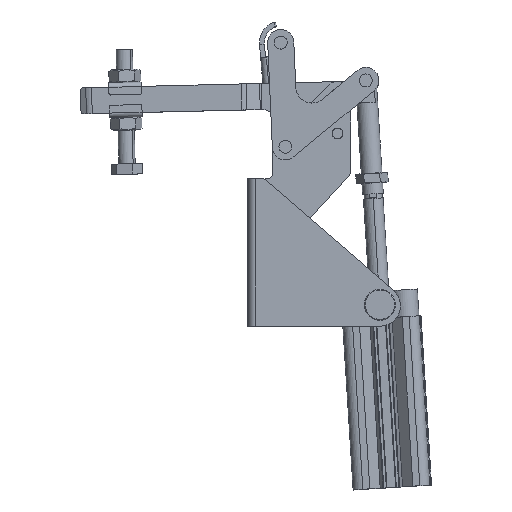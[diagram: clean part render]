
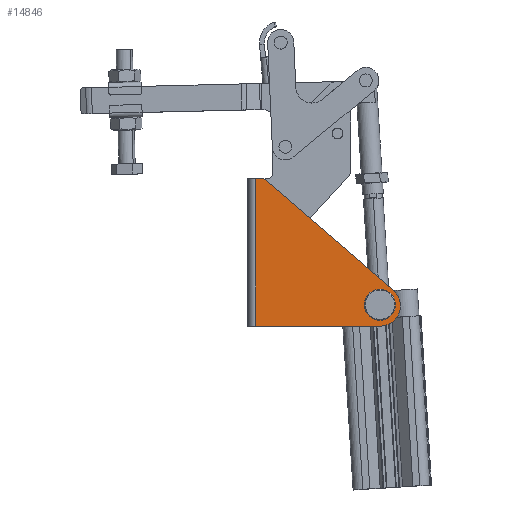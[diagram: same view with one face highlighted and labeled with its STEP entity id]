
A CAD part, top view. The second image highlights one B-rep face of the part: STEP entity #14846.
In plain terms, the highlighted planar face has unit normal (0, 0, 1) as drawn and (1, 0, 0) by its records, which use the part's own axes.
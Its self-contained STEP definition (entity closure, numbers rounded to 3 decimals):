
#264 = CIRCLE ( 'NONE', #15465, 5. ) ;
#603 = ORIENTED_EDGE ( 'NONE', *, *, #11920, .F. ) ;
#915 = FACE_BOUND ( 'NONE', #17175, .T. ) ;
#1227 = VERTEX_POINT ( 'NONE', #20390 ) ;
#1473 = CARTESIAN_POINT ( 'NONE',  ( 37.5, 77.162, -77.376 ) ) ;
#1888 = DIRECTION ( 'NONE',  ( -1., 0., 0. ) ) ;
#1930 = VERTEX_POINT ( 'NONE', #17759 ) ;
#2371 = CARTESIAN_POINT ( 'NONE',  ( 37.5, 77.162, -77.376 ) ) ;
#2990 = VECTOR ( 'NONE', #6035, 1000. ) ;
#3254 = CARTESIAN_POINT ( 'NONE',  ( 37.5, 4.202, -5. ) ) ;
#3351 = DIRECTION ( 'NONE',  ( 0., 0., 1. ) ) ;
#4163 = CARTESIAN_POINT ( 'NONE',  ( 37.5, 77.234, -90.5 ) ) ;
#4255 = DIRECTION ( 'NONE',  ( 0., 0., 1. ) ) ;
#4548 = AXIS2_PLACEMENT_3D ( 'NONE', #1473, #14634, #3351 ) ;
#4629 = AXIS2_PLACEMENT_3D ( 'NONE', #13131, #1888, #15026 ) ;
#5146 = DIRECTION ( 'NONE',  ( 0., 0., 1. ) ) ;
#6035 = DIRECTION ( 'NONE',  ( 0., -1., 0. ) ) ;
#6169 = CARTESIAN_POINT ( 'NONE',  ( 37.5, -76.734, 0. ) ) ;
#6235 = VERTEX_POINT ( 'NONE', #11214 ) ;
#6262 = CARTESIAN_POINT ( 'NONE',  ( 37.5, 77.234, -90.5 ) ) ;
#6312 = VECTOR ( 'NONE', #23288, 1000. ) ;
#6482 = FACE_OUTER_BOUND ( 'NONE', #15128, .T. ) ;
#6630 = CIRCLE ( 'NONE', #4629, 12.5 ) ;
#6793 = CARTESIAN_POINT ( 'NONE',  ( 37.5, 7.47, -1.216 ) ) ;
#7957 = EDGE_CURVE ( 'NONE', #9368, #21191, #264, .T. ) ;
#8556 = LINE ( 'NONE', #4163, #2990 ) ;
#9171 = EDGE_CURVE ( 'NONE', #23654, #9368, #10458, .T. ) ;
#9368 = VERTEX_POINT ( 'NONE', #12262 ) ;
#9444 = ORIENTED_EDGE ( 'NONE', *, *, #18406, .T. ) ;
#9619 = CARTESIAN_POINT ( 'NONE',  ( 37.5, 85.405, -68.541 ) ) ;
#9943 = DIRECTION ( 'NONE',  ( 0., 1., 0. ) ) ;
#10036 = CIRCLE ( 'NONE', #4548, 8.1 ) ;
#10458 = LINE ( 'NONE', #6169, #14875 ) ;
#10579 = CARTESIAN_POINT ( 'NONE',  ( 37.5, 1., -78. ) ) ;
#10633 = CARTESIAN_POINT ( 'NONE',  ( 37.5, 1., 0. ) ) ;
#11009 = ORIENTED_EDGE ( 'NONE', *, *, #7957, .F. ) ;
#11214 = CARTESIAN_POINT ( 'NONE',  ( 37.5, 77.162, -69.276 ) ) ;
#11301 = DIRECTION ( 'NONE',  ( 0., 0., 1. ) ) ;
#11920 = EDGE_CURVE ( 'NONE', #21191, #22110, #20772, .T. ) ;
#12262 = CARTESIAN_POINT ( 'NONE',  ( 37.5, 4.202, 0. ) ) ;
#13032 = CARTESIAN_POINT ( 'NONE',  ( 37.5, 77.234, -78. ) ) ;
#13131 = CARTESIAN_POINT ( 'NONE',  ( 37.5, 77.234, -78. ) ) ;
#14634 = DIRECTION ( 'NONE',  ( -1., 0., 0. ) ) ;
#14846 = ADVANCED_FACE ( 'NONE', ( #915, #6482 ), #18827, .F. ) ;
#14875 = VECTOR ( 'NONE', #9943, 1000. ) ;
#15026 = DIRECTION ( 'NONE',  ( 0., 0., 1. ) ) ;
#15128 = EDGE_LOOP ( 'NONE', ( #18701, #16671, #24045, #20544, #603, #11009 ) ) ;
#15465 = AXIS2_PLACEMENT_3D ( 'NONE', #3254, #16427, #5146 ) ;
#15517 = DIRECTION ( 'NONE',  ( -1., 0., 0. ) ) ;
#15828 = AXIS2_PLACEMENT_3D ( 'NONE', #13032, #22584, #11301 ) ;
#16427 = DIRECTION ( 'NONE',  ( -1., 0., 0. ) ) ;
#16662 = VECTOR ( 'NONE', #23767, 1000. ) ;
#16671 = ORIENTED_EDGE ( 'NONE', *, *, #21136, .T. ) ;
#17175 = EDGE_LOOP ( 'NONE', ( #18581, #9444 ) ) ;
#17759 = CARTESIAN_POINT ( 'NONE',  ( 37.5, 77.162, -85.476 ) ) ;
#18406 = EDGE_CURVE ( 'NONE', #1930, #6235, #10036, .T. ) ;
#18581 = ORIENTED_EDGE ( 'NONE', *, *, #22803, .T. ) ;
#18701 = ORIENTED_EDGE ( 'NONE', *, *, #9171, .F. ) ;
#18728 = CIRCLE ( 'NONE', #23549, 8.1 ) ;
#18772 = EDGE_CURVE ( 'NONE', #24305, #1227, #8556, .T. ) ;
#18827 = PLANE ( 'NONE',  #15828 ) ;
#19391 = LINE ( 'NONE', #10579, #16662 ) ;
#20390 = CARTESIAN_POINT ( 'NONE',  ( 37.5, 1., -90.5 ) ) ;
#20544 = ORIENTED_EDGE ( 'NONE', *, *, #22630, .F. ) ;
#20772 = LINE ( 'NONE', #21420, #6312 ) ;
#21136 = EDGE_CURVE ( 'NONE', #23654, #1227, #19391, .T. ) ;
#21191 = VERTEX_POINT ( 'NONE', #6793 ) ;
#21420 = CARTESIAN_POINT ( 'NONE',  ( 37.5, 7.47, -1.216 ) ) ;
#22110 = VERTEX_POINT ( 'NONE', #9619 ) ;
#22584 = DIRECTION ( 'NONE',  ( -1., 0., 0. ) ) ;
#22630 = EDGE_CURVE ( 'NONE', #22110, #24305, #6630, .T. ) ;
#22803 = EDGE_CURVE ( 'NONE', #6235, #1930, #18728, .T. ) ;
#23288 = DIRECTION ( 'NONE',  ( 0., 0.757, -0.654 ) ) ;
#23549 = AXIS2_PLACEMENT_3D ( 'NONE', #2371, #15517, #4255 ) ;
#23654 = VERTEX_POINT ( 'NONE', #10633 ) ;
#23767 = DIRECTION ( 'NONE',  ( 0., 0., -1. ) ) ;
#24045 = ORIENTED_EDGE ( 'NONE', *, *, #18772, .F. ) ;
#24305 = VERTEX_POINT ( 'NONE', #6262 ) ;
